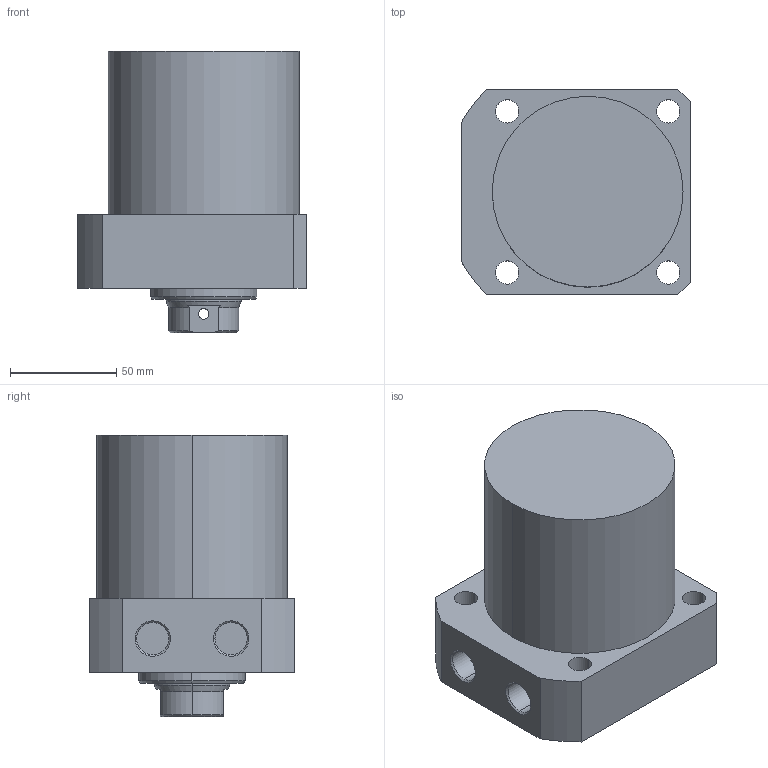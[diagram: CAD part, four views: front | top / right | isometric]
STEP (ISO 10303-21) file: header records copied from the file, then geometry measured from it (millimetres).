
FILE_DESCRIPTION (( 'STEP AP203' ), '1' );
FILE_NAME ('CLLR-090CB-055.STEP', '2019-12-19T02:32:32', ( '' ), ( '' ), 'SwSTEP 2.0', 'SolidWorks 2015', '' );
FILE_SCHEMA (( 'CONFIG_CONTROL_DESIGN' ));
Length unit declared in the file: millimetre
Products named in the file (1): CLLR-090CB-055
Bounding box: 108 x 97 x 133 mm (x, y, z)
Volume: 839867 mm3; surface area: 66956.9 mm2
Topology: 1 solids, 1 shells, 67 faces, 161 edges, 102 vertices
Faces by surface type: cylinder 33, plane 19, cone 15
Entity records: 2179 total; most frequent: CARTESIAN_POINT 477, DIRECTION 360, ORIENTED_EDGE 318, EDGE_CURVE 159, AXIS2_PLACEMENT_3D 145, VERTEX_POINT 102, EDGE_LOOP 87, CIRCLE 77
